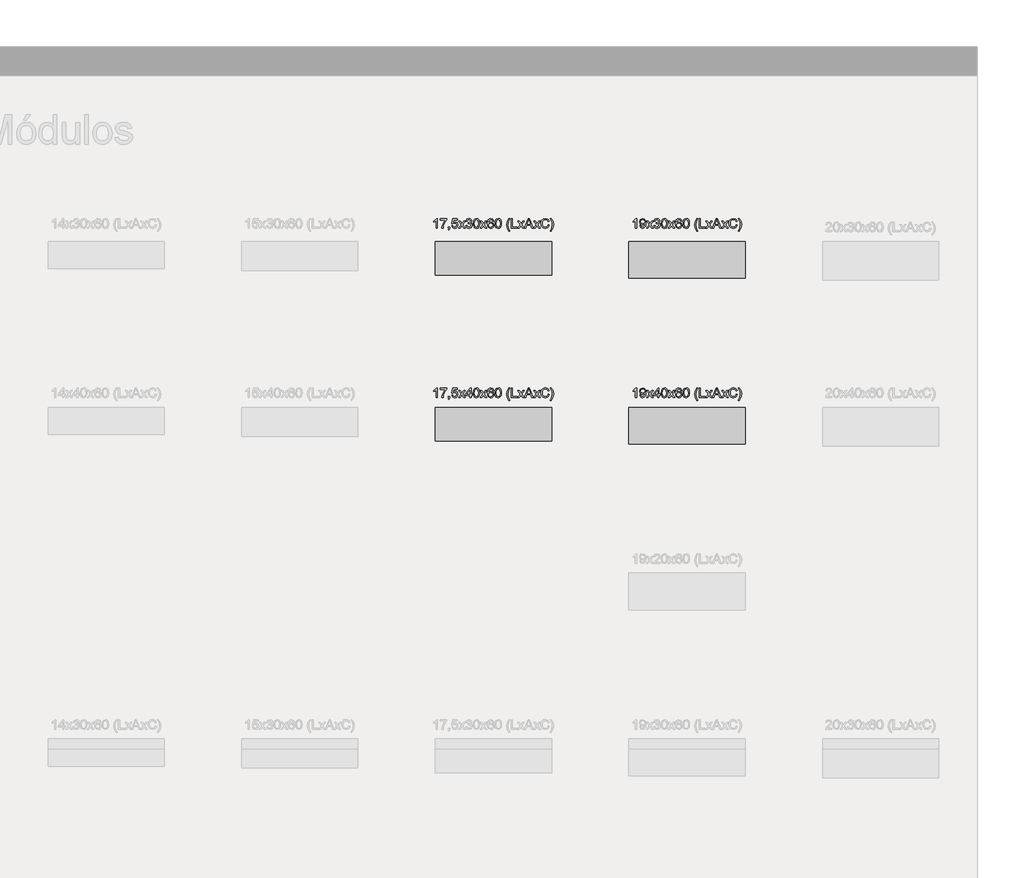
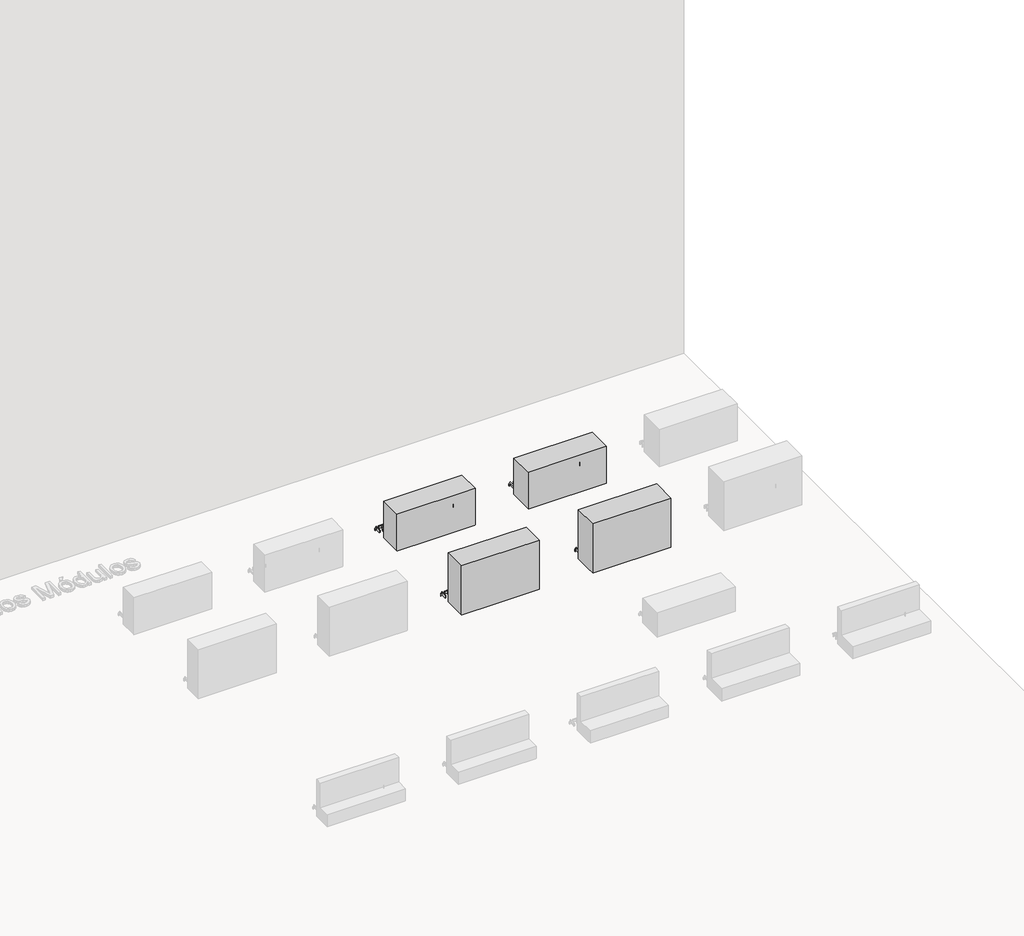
# One storey, part 22 of 26: 8 proxies.
"""IFC4 building model written with IfcOpenShell, lengths in millimetres."""

from ifc_helpers import new_model, si_unit, origin, origin_with_axes, place, context, project, spatial, polyline, outline, extrude, transform, mapped, element, save
from components import generic_models_9379f522, generic_models_39737419, generic_models_ac6e04da, generic_models_be295d03

model = new_model("IFC4")

# Units and contexts
model_context = context("Model", 3, world=origin())
ifc_project = project(units=[si_unit("LENGTHUNIT", "METRE", prefix="MILLI")], contexts=[model_context])

# Site, building, storey
site = spatial("IfcSite", under=ifc_project)
building = spatial("IfcBuilding", under=site)
storey = spatial("IfcBuildingStorey", under=building, Name="Catálogo Celucon", Elevation=0.0)

# Proxies
placement = place(None, origin())
element("IfcBuildingElementProxy", 1, Name="Dimensões", ObjectType="Dimensões", at=placement, inside=storey, context=model_context, shape_type="SweptSolid", body=[
    extrude(outline(polyline([(-5787.0646748, 1418.4635097), (-5793.3431942, 1418.4635097), (-5793.3431942, 1457.606154), (-5799.2906197, 1453.3693797), (-5805.9002329, 1450.1994632), (-5805.9002329, 1456.134626), (-5796.6970517, 1462.0084752), (-5791.1113767, 1468.6916648), (-5787.0646748, 1468.6916648), (-5787.0646748, 1418.4635097)])), origin_with_axes(), (0.0, 0.0, 1.0), 20.0),
    extrude(outline(polyline([(-5772.1531912, 1461.6283305), (-5772.1531912, 1467.9068499), (-5739.1909645, 1467.9068499), (-5739.1909645, 1462.8300783), (-5748.5412985, 1449.3226777), (-5755.6966033, 1432.1119317), (-5758.0265226, 1418.4635097), (-5764.305042, 1418.4635097), (-5761.8095758, 1432.6269665), (-5754.9608393, 1448.6359647), (-5745.4694838, 1461.6283305), (-5772.1531912, 1461.6283305)])), origin_with_axes(), (0.0, 0.0, 1.0), 20.0),
    extrude(outline(polyline([(-5730.5580003, 1418.4635097), (-5730.5580003, 1424.7420291), (-5724.2794809, 1424.7420291), (-5724.2794809, 1418.4635097), (-5725.4076524, 1412.0439689), (-5728.9883705, 1408.2609157), (-5730.5580003, 1410.6153605), (-5728.2526065, 1413.3254245), (-5727.4310034, 1418.4635097), (-5730.5580003, 1418.4635097)])), origin_with_axes(), (0.0, 0.0, 1.0), 20.0),
    extrude(outline(polyline([(-5714.0768869, 1431.8053634), (-5707.7983675, 1432.5901783), (-5704.6345824, 1426.1215866), (-5698.0740201, 1423.9572142), (-5690.2013454, 1426.9677152), (-5687.3931795, 1434.9568858), (-5690.0235358, 1442.4126276), (-5697.9759183, 1445.1472171), (-5703.4880168, 1444.0558338), (-5707.0135526, 1441.2231425), (-5713.292072, 1442.0079574), (-5707.7983675, 1467.9068499), (-5683.4691049, 1467.9068499), (-5683.4691049, 1461.6283305), (-5702.721596, 1461.6283305), (-5705.4071346, 1447.7959675), (-5696.2223474, 1451.4257365), (-5685.4863245, 1446.9253134), (-5681.1146602, 1435.3492933), (-5685.0509975, 1423.6996968), (-5690.7041175, 1419.1839453), (-5698.0985456, 1417.6786948), (-5709.177925, 1421.5475871), (-5714.0768869, 1431.8053634)])), origin_with_axes(), (0.0, 0.0, 1.0), 20.0),
    extrude(outline(polyline([(-5677.9754005, 1418.4635097), (-5664.5599704, 1437.0047623), (-5677.1905855, 1455.3498111), (-5669.6367419, 1455.3498111), (-5663.5421635, 1446.5206432), (-5660.6972094, 1442.3513139), (-5658.2324001, 1445.7603537), (-5651.2916931, 1455.3498111), (-5643.7378494, 1455.3498111), (-5657.0061267, 1437.0047623), (-5644.2283588, 1418.4635097), (-5651.7822024, 1418.4635097), (-5659.4709361, 1429.6103342), (-5660.8811504, 1431.6459479), (-5670.4215568, 1418.4635097), (-5677.9754005, 1418.4635097)])), origin_with_axes(), (0.0, 0.0, 1.0), 20.0),
    extrude(outline(polyline([(-5640.3042842, 1431.8053634), (-5634.0257648, 1432.5901783), (-5630.5615427, 1425.9805651), (-5624.0806882, 1423.9572142), (-5616.4532681, 1426.7408546), (-5613.6205768, 1433.6325106), (-5616.4287427, 1440.1256279), (-5623.5656534, 1442.6946705), (-5627.9679746, 1442.0079574), (-5627.2689988, 1448.2864768), (-5619.1388067, 1450.0155222), (-5615.9750215, 1455.5582776), (-5618.2681526, 1460.4695022), (-5624.17879, 1462.4131454), (-5630.1630038, 1460.4511081), (-5633.2409499, 1454.5649962), (-5639.5194692, 1455.3498111), (-5634.381384, 1465.1967858), (-5624.3995192, 1468.6916648), (-5616.8272815, 1466.9687508), (-5611.5297808, 1462.2598612), (-5609.6965022, 1455.9261595), (-5611.4378103, 1450.1381495), (-5616.5881582, 1445.9810829), (-5609.7455531, 1441.6891263), (-5607.3420574, 1433.522146), (-5612.1490488, 1422.2894825), (-5624.3014174, 1417.6786948), (-5635.3133518, 1421.6150321), (-5640.3042842, 1431.8053634)])), origin_with_axes(), (0.0, 0.0, 1.0), 20.0),
    extrude(outline(polyline([(-5601.8483529, 1443.172917), (-5600.0028116, 1457.6245481), (-5594.5213699, 1465.9570753), (-5585.3672395, 1468.6916648), (-5578.0341251, 1467.072984), (-5572.9696163, 1462.407014), (-5570.0265603, 1454.9757977), (-5568.8861262, 1443.172917), (-5570.7132734, 1428.7825997), (-5576.176321, 1420.4316784), (-5585.3672395, 1417.6786948), (-5596.8451578, 1422.4611607), (-5600.5975541, 1430.9561691), (-5601.8483529, 1443.172917)]), holes=[polyline([(-5595.5698335, 1443.1851798), (-5592.6267776, 1427.5931146), (-5585.3672395, 1423.9572142), (-5578.1077015, 1427.6053773), (-5575.1646455, 1443.1851798), (-5578.0095996, 1458.5994354), (-5585.4408159, 1462.4131454), (-5592.5286757, 1459.0531565), (-5595.5698335, 1443.1851798)])]), origin_with_axes(), (0.0, 0.0, 1.0), 20.0),
    extrude(outline(polyline([(-5565.7468665, 1418.4635097), (-5552.3314364, 1437.0047623), (-5564.9620515, 1455.3498111), (-5557.4082079, 1455.3498111), (-5551.3136295, 1446.5206432), (-5548.4686754, 1442.3513139), (-5546.0038661, 1445.7603537), (-5539.0631591, 1455.3498111), (-5531.5093155, 1455.3498111), (-5544.7775927, 1437.0047623), (-5531.9998248, 1418.4635097), (-5539.5536684, 1418.4635097), (-5547.2424021, 1429.6103342), (-5548.6526164, 1431.6459479), (-5558.1930228, 1418.4635097), (-5565.7468665, 1418.4635097)])), origin_with_axes(), (0.0, 0.0, 1.0), 20.0),
    extrude(outline(polyline([(-5495.8983383, 1455.3498111), (-5502.1768577, 1454.5649962), (-5504.5558279, 1459.8011832), (-5510.8466101, 1462.4131454), (-5516.5119928, 1460.8925665), (-5520.797818, 1455.1842642), (-5522.5820457, 1443.9945202), (-5517.0454217, 1449.0038467), (-5510.1844225, 1450.6409215), (-5499.5158446, 1446.1650239), (-5495.1135234, 1434.6012666), (-5497.1859253, 1425.9376456), (-5502.8880962, 1419.806279), (-5511.1163902, 1417.6786948), (-5523.9125523, 1423.319552), (-5527.6235619, 1430.7875565), (-5528.8605651, 1441.9098555), (-5527.487139, 1454.4147777), (-5523.3668606, 1462.9649684), (-5517.7413318, 1467.2599907), (-5510.4542026, 1468.6916648), (-5500.5336515, 1465.1477349), (-5495.8983383, 1455.3498111)]), holes=[polyline([(-5522.5820457, 1434.6993684), (-5521.1289118, 1429.2608463), (-5517.2661509, 1425.3122462), (-5511.6068995, 1423.9572142), (-5504.20634, 1426.7653801), (-5501.3920428, 1434.3928001), (-5504.1695518, 1441.6952577), (-5511.8644169, 1444.3624022), (-5519.4611801, 1441.6952577), (-5522.5820457, 1434.6993684)])]), origin_with_axes(), (0.0, 0.0, 1.0), 20.0),
    extrude(outline(polyline([(-5489.6198189, 1443.172917), (-5487.7742776, 1457.6245481), (-5482.2928359, 1465.9570753), (-5473.1387056, 1468.6916648), (-5465.8055911, 1467.072984), (-5460.7410823, 1462.407014), (-5457.7980264, 1454.9757977), (-5456.6575922, 1443.172917), (-5458.4847394, 1428.7825997), (-5463.947787, 1420.4316784), (-5473.1387056, 1417.6786948), (-5484.6166238, 1422.4611607), (-5488.3690202, 1430.9561691), (-5489.6198189, 1443.172917)]), holes=[polyline([(-5483.3412996, 1443.1851798), (-5480.3982436, 1427.5931146), (-5473.1387056, 1423.9572142), (-5465.8791675, 1427.6053773), (-5462.9361116, 1443.1851798), (-5465.7810656, 1458.5994354), (-5473.212282, 1462.4131454), (-5480.3001417, 1459.0531565), (-5483.3412996, 1443.1851798)])]), origin_with_axes(), (0.0, 0.0, 1.0), 20.0),
    extrude(outline(polyline([(-5417.416846, 1404.3368411), (-5426.331853, 1419.0643836), (-5429.9738848, 1436.5510411), (-5427.251558, 1451.8181439), (-5417.416846, 1468.6916648), (-5412.7079565, 1468.6916648), (-5418.5818057, 1458.7465882), (-5422.1134728, 1449.1080799), (-5423.6953654, 1436.5142529), (-5420.9485132, 1420.4194156), (-5412.7079565, 1404.3368411), (-5417.416846, 1404.3368411)])), origin_with_axes(), (0.0, 0.0, 1.0), 20.0),
    extrude(outline(polyline([(-5405.6446222, 1418.4635097), (-5405.6446222, 1468.6916648), (-5399.3661028, 1468.6916648), (-5399.3661028, 1424.7420291), (-5374.2520252, 1424.7420291), (-5374.2520252, 1418.4635097), (-5405.6446222, 1418.4635097)])), origin_with_axes(), (0.0, 0.0, 1.0), 20.0),
    extrude(outline(polyline([(-5337.7213431, 1418.4635097), (-5317.6717744, 1468.6916648), (-5312.3252227, 1468.6916648), (-5292.275654, 1418.4635097), (-5298.9097926, 1418.4635097), (-5304.6610145, 1434.1598082), (-5325.3482454, 1434.1598082), (-5331.0872045, 1418.4635097), (-5337.7213431, 1418.4635097)]), holes=[polyline([(-5323.0428515, 1440.4383275), (-5306.9541456, 1440.4383275), (-5311.4790941, 1452.7868999), (-5314.9984986, 1462.4131454), (-5318.1254955, 1453.8660204), (-5323.0428515, 1440.4383275)])]), origin_with_axes(), (0.0, 0.0, 1.0), 20.0),
    extrude(outline(polyline([(-5371.8975805, 1418.4635097), (-5358.4821504, 1437.0047623), (-5371.1127656, 1455.3498111), (-5363.5589219, 1455.3498111), (-5357.4643435, 1446.5206432), (-5354.6193894, 1442.3513139), (-5352.1545801, 1445.7603537), (-5345.2138731, 1455.3498111), (-5337.6600295, 1455.3498111), (-5350.9283068, 1437.0047623), (-5338.1505388, 1418.4635097), (-5345.7043824, 1418.4635097), (-5353.3931161, 1429.6103342), (-5354.8033304, 1431.6459479), (-5364.3437368, 1418.4635097), (-5371.8975805, 1418.4635097)])), origin_with_axes(), (0.0, 0.0, 1.0), 20.0),
    extrude(outline(polyline([(-5290.2768285, 1418.4635097), (-5276.8613984, 1437.0047623), (-5289.4920136, 1455.3498111), (-5281.9381699, 1455.3498111), (-5275.8435915, 1446.5206432), (-5272.9986374, 1442.3513139), (-5270.5338281, 1445.7603537), (-5263.5931211, 1455.3498111), (-5256.0392775, 1455.3498111), (-5269.3075548, 1437.0047623), (-5256.5297868, 1418.4635097), (-5264.0836304, 1418.4635097), (-5271.7723641, 1429.6103342), (-5273.1825784, 1431.6459479), (-5282.7229848, 1418.4635097), (-5290.2768285, 1418.4635097)])), origin_with_axes(), (0.0, 0.0, 1.0), 20.0),
    extrude(outline(polyline([(-5214.9345959, 1436.3180492), (-5208.6560765, 1434.6993684), (-5216.0995555, 1422.0380964), (-5229.2452055, 1417.6786948), (-5242.3111477, 1420.97737), (-5249.9753559, 1430.5300391), (-5252.6057122, 1443.957732), (-5249.6319994, 1457.606154), (-5241.1768449, 1466.453716), (-5229.1103154, 1469.4764797), (-5216.5348825, 1465.5646678), (-5209.4408914, 1454.5527334), (-5215.7194108, 1453.05668), (-5220.8697587, 1460.7760705), (-5229.3555701, 1463.1979603), (-5239.1780194, 1460.5124218), (-5244.7269061, 1453.3019346), (-5246.3271928, 1443.9699947), (-5244.4326005, 1433.154264), (-5238.5342259, 1426.2442139), (-5229.8706049, 1423.9572142), (-5220.2627534, 1427.0719484), (-5214.9345959, 1436.3180492)])), origin_with_axes(), (0.0, 0.0, 1.0), 20.0),
    extrude(outline(polyline([(-5199.2382974, 1404.3368411), (-5203.9471869, 1404.3368411), (-5195.7066303, 1420.4194156), (-5192.959778, 1436.5142529), (-5194.5416706, 1448.9977153), (-5198.0365496, 1458.6484863), (-5203.9471869, 1468.6916648), (-5199.2382974, 1468.6916648), (-5189.4035854, 1451.8181439), (-5186.6812586, 1436.5510411), (-5190.3416845, 1419.0643836), (-5199.2382974, 1404.3368411)])), origin_with_axes(), (0.0, 0.0, 1.0), 20.0),
])
element("IfcBuildingElementProxy", 2, Name="Dimensões", ObjectType="Dimensões", at=placement, inside=storey, context=model_context, shape_type="SweptSolid", body=[
    extrude(outline(polyline([(-4758.0265226, 1418.4635097), (-4764.305042, 1418.4635097), (-4764.305042, 1457.606154), (-4770.2524676, 1453.3693797), (-4776.8620808, 1450.1994632), (-4776.8620808, 1456.134626), (-4767.6588995, 1462.0084752), (-4762.0732246, 1468.6916648), (-4758.0265226, 1468.6916648), (-4758.0265226, 1418.4635097)])), origin_with_axes(), (0.0, 0.0, 1.0), 20.0),
    extrude(outline(polyline([(-4742.3302242, 1431.0205485), (-4736.0517048, 1431.8053634), (-4733.2312761, 1425.8150182), (-4727.8847245, 1423.9572142), (-4722.8018216, 1425.1528307), (-4719.3559936, 1428.3472726), (-4717.3019857, 1433.8041889), (-4716.3945435, 1441.0882524), (-4721.4529209, 1437.5565853), (-4728.3384456, 1435.729438), (-4738.8292138, 1440.1930729), (-4743.1150391, 1451.953034), (-4738.6207474, 1464.0931398), (-4727.357427, 1468.6916648), (-4718.4117631, 1466.0674399), (-4712.255871, 1458.5871726), (-4710.1528123, 1444.5340804), (-4712.2497397, 1429.2853717), (-4718.4853395, 1420.6462762), (-4728.1790301, 1417.6786948), (-4737.8298011, 1421.1797051), (-4742.3302242, 1431.0205485)]), holes=[polyline([(-4716.4313317, 1452.1001868), (-4719.1413957, 1459.629505), (-4726.3396201, 1462.4131454), (-4733.8934637, 1459.4149071), (-4736.8365197, 1451.6464657), (-4734.0528793, 1444.6873646), (-4726.5112984, 1442.0079574), (-4719.2701544, 1444.6873646), (-4716.4313317, 1452.1001868)])]), origin_with_axes(), (0.0, 0.0, 1.0), 20.0),
    extrude(outline(polyline([(-4707.0135526, 1418.4635097), (-4693.5981225, 1437.0047623), (-4706.2287377, 1455.3498111), (-4698.6748941, 1455.3498111), (-4692.5803157, 1446.5206432), (-4689.7353616, 1442.3513139), (-4687.2705522, 1445.7603537), (-4680.3298452, 1455.3498111), (-4672.7760016, 1455.3498111), (-4686.0442789, 1437.0047623), (-4673.2665109, 1418.4635097), (-4680.8203546, 1418.4635097), (-4688.5090883, 1429.6103342), (-4689.9193026, 1431.6459479), (-4699.459709, 1418.4635097), (-4707.0135526, 1418.4635097)])), origin_with_axes(), (0.0, 0.0, 1.0), 20.0),
    extrude(outline(polyline([(-4669.3424363, 1431.8053634), (-4663.0639169, 1432.5901783), (-4659.5996948, 1425.9805651), (-4653.1188403, 1423.9572142), (-4645.4914203, 1426.7408546), (-4642.6587289, 1433.6325106), (-4645.4668948, 1440.1256279), (-4652.6038055, 1442.6946705), (-4657.0061267, 1442.0079574), (-4656.3071509, 1448.2864768), (-4648.1769589, 1450.0155222), (-4645.0131737, 1455.5582776), (-4647.3063048, 1460.4695022), (-4653.2169422, 1462.4131454), (-4659.201156, 1460.4511081), (-4662.279102, 1454.5649962), (-4668.5576214, 1455.3498111), (-4663.4195362, 1465.1967858), (-4653.4376714, 1468.6916648), (-4645.8654337, 1466.9687508), (-4640.5679329, 1462.2598612), (-4638.7346543, 1455.9261595), (-4640.4759624, 1450.1381495), (-4645.6263104, 1445.9810829), (-4638.7837052, 1441.6891263), (-4636.3802095, 1433.522146), (-4641.1872009, 1422.2894825), (-4653.3395695, 1417.6786948), (-4664.3515039, 1421.6150321), (-4669.3424363, 1431.8053634)])), origin_with_axes(), (0.0, 0.0, 1.0), 20.0),
    extrude(outline(polyline([(-4630.8865051, 1443.172917), (-4629.0409637, 1457.6245481), (-4623.559522, 1465.9570753), (-4614.4053917, 1468.6916648), (-4607.0722773, 1467.072984), (-4602.0077685, 1462.407014), (-4599.0647125, 1454.9757977), (-4597.9242783, 1443.172917), (-4599.7514256, 1428.7825997), (-4605.2144732, 1420.4316784), (-4614.4053917, 1417.6786948), (-4625.8833099, 1422.4611607), (-4629.6357063, 1430.9561691), (-4630.8865051, 1443.172917)]), holes=[polyline([(-4624.6079857, 1443.1851798), (-4621.6649297, 1427.5931146), (-4614.4053917, 1423.9572142), (-4607.1458537, 1427.6053773), (-4604.2027977, 1443.1851798), (-4607.0477518, 1458.5994354), (-4614.4789681, 1462.4131454), (-4621.5668279, 1459.0531565), (-4624.6079857, 1443.1851798)])]), origin_with_axes(), (0.0, 0.0, 1.0), 20.0),
    extrude(outline(polyline([(-4594.7850186, 1418.4635097), (-4581.3695885, 1437.0047623), (-4594.0002037, 1455.3498111), (-4586.4463601, 1455.3498111), (-4580.3517817, 1446.5206432), (-4577.5068276, 1442.3513139), (-4575.0420182, 1445.7603537), (-4568.1013112, 1455.3498111), (-4560.5474676, 1455.3498111), (-4573.8157449, 1437.0047623), (-4561.0379769, 1418.4635097), (-4568.5918206, 1418.4635097), (-4576.2805543, 1429.6103342), (-4577.6907686, 1431.6459479), (-4587.231175, 1418.4635097), (-4594.7850186, 1418.4635097)])), origin_with_axes(), (0.0, 0.0, 1.0), 20.0),
    extrude(outline(polyline([(-4524.9364905, 1455.3498111), (-4531.2150099, 1454.5649962), (-4533.5939801, 1459.8011832), (-4539.8847622, 1462.4131454), (-4545.5501449, 1460.8925665), (-4549.8359702, 1455.1842642), (-4551.6201979, 1443.9945202), (-4546.0835738, 1449.0038467), (-4539.2225746, 1450.6409215), (-4528.5539968, 1446.1650239), (-4524.1516755, 1434.6012666), (-4526.2240775, 1425.9376456), (-4531.9262484, 1419.806279), (-4540.1545423, 1417.6786948), (-4552.9507044, 1423.319552), (-4556.661714, 1430.7875565), (-4557.8987172, 1441.9098555), (-4556.5252911, 1454.4147777), (-4552.4050128, 1462.9649684), (-4546.7794839, 1467.2599907), (-4539.4923547, 1468.6916648), (-4529.5718036, 1465.1477349), (-4524.9364905, 1455.3498111)]), holes=[polyline([(-4551.6201979, 1434.6993684), (-4550.167064, 1429.2608463), (-4546.304303, 1425.3122462), (-4540.6450517, 1423.9572142), (-4533.2444922, 1426.7653801), (-4530.4301949, 1434.3928001), (-4533.207704, 1441.6952577), (-4540.9025691, 1444.3624022), (-4548.4993323, 1441.6952577), (-4551.6201979, 1434.6993684)])]), origin_with_axes(), (0.0, 0.0, 1.0), 20.0),
    extrude(outline(polyline([(-4518.6579711, 1443.172917), (-4516.8124297, 1457.6245481), (-4511.330988, 1465.9570753), (-4502.1768577, 1468.6916648), (-4494.8437433, 1467.072984), (-4489.7792345, 1462.407014), (-4486.8361785, 1454.9757977), (-4485.6957443, 1443.172917), (-4487.5228916, 1428.7825997), (-4492.9859392, 1420.4316784), (-4502.1768577, 1417.6786948), (-4513.654776, 1422.4611607), (-4517.4071723, 1430.9561691), (-4518.6579711, 1443.172917)]), holes=[polyline([(-4512.3794517, 1443.1851798), (-4509.4363957, 1427.5931146), (-4502.1768577, 1423.9572142), (-4494.9173197, 1427.6053773), (-4491.9742637, 1443.1851798), (-4494.8192178, 1458.5994354), (-4502.2504341, 1462.4131454), (-4509.3382939, 1459.0531565), (-4512.3794517, 1443.1851798)])]), origin_with_axes(), (0.0, 0.0, 1.0), 20.0),
    extrude(outline(polyline([(-4446.4549982, 1404.3368411), (-4455.3700052, 1419.0643836), (-4459.0120369, 1436.5510411), (-4456.2897102, 1451.8181439), (-4446.4549982, 1468.6916648), (-4441.7461086, 1468.6916648), (-4447.6199578, 1458.7465882), (-4451.151625, 1449.1080799), (-4452.7335176, 1436.5142529), (-4449.9866653, 1420.4194156), (-4441.7461086, 1404.3368411), (-4446.4549982, 1404.3368411)])), origin_with_axes(), (0.0, 0.0, 1.0), 20.0),
    extrude(outline(polyline([(-4434.6827743, 1418.4635097), (-4434.6827743, 1468.6916648), (-4428.4042549, 1468.6916648), (-4428.4042549, 1424.7420291), (-4403.2901774, 1424.7420291), (-4403.2901774, 1418.4635097), (-4434.6827743, 1418.4635097)])), origin_with_axes(), (0.0, 0.0, 1.0), 20.0),
    extrude(outline(polyline([(-4366.7594953, 1418.4635097), (-4346.7099265, 1468.6916648), (-4341.3633749, 1468.6916648), (-4321.3138061, 1418.4635097), (-4327.9479448, 1418.4635097), (-4333.6991666, 1434.1598082), (-4354.3863975, 1434.1598082), (-4360.1253566, 1418.4635097), (-4366.7594953, 1418.4635097)]), holes=[polyline([(-4352.0810037, 1440.4383275), (-4335.9922977, 1440.4383275), (-4340.5172463, 1452.7868999), (-4344.0366507, 1462.4131454), (-4347.1636477, 1453.8660204), (-4352.0810037, 1440.4383275)])]), origin_with_axes(), (0.0, 0.0, 1.0), 20.0),
    extrude(outline(polyline([(-4400.9357326, 1418.4635097), (-4387.5203025, 1437.0047623), (-4400.1509177, 1455.3498111), (-4392.5970741, 1455.3498111), (-4386.5024957, 1446.5206432), (-4383.6575416, 1442.3513139), (-4381.1927322, 1445.7603537), (-4374.2520252, 1455.3498111), (-4366.6981816, 1455.3498111), (-4379.9664589, 1437.0047623), (-4367.1886909, 1418.4635097), (-4374.7425346, 1418.4635097), (-4382.4312683, 1429.6103342), (-4383.8414826, 1431.6459479), (-4393.381889, 1418.4635097), (-4400.9357326, 1418.4635097)])), origin_with_axes(), (0.0, 0.0, 1.0), 20.0),
    extrude(outline(polyline([(-4319.3149806, 1418.4635097), (-4305.8995505, 1437.0047623), (-4318.5301657, 1455.3498111), (-4310.9763221, 1455.3498111), (-4304.8817437, 1446.5206432), (-4302.0367896, 1442.3513139), (-4299.5719802, 1445.7603537), (-4292.6312733, 1455.3498111), (-4285.0774296, 1455.3498111), (-4298.3457069, 1437.0047623), (-4285.5679389, 1418.4635097), (-4293.1217826, 1418.4635097), (-4300.8105163, 1429.6103342), (-4302.2207306, 1431.6459479), (-4311.761137, 1418.4635097), (-4319.3149806, 1418.4635097)])), origin_with_axes(), (0.0, 0.0, 1.0), 20.0),
    extrude(outline(polyline([(-4243.972748, 1436.3180492), (-4237.6942286, 1434.6993684), (-4245.1377077, 1422.0380964), (-4258.2833576, 1417.6786948), (-4271.3492998, 1420.97737), (-4279.0135081, 1430.5300391), (-4281.6438643, 1443.957732), (-4278.6701515, 1457.606154), (-4270.214997, 1466.453716), (-4258.1484676, 1469.4764797), (-4245.5730347, 1465.5646678), (-4238.4790436, 1454.5527334), (-4244.7575629, 1453.05668), (-4249.9079109, 1460.7760705), (-4258.3937222, 1463.1979603), (-4268.2161715, 1460.5124218), (-4273.7650583, 1453.3019346), (-4275.3653449, 1443.9699947), (-4273.4707527, 1433.154264), (-4267.572378, 1426.2442139), (-4258.908757, 1423.9572142), (-4249.3009056, 1427.0719484), (-4243.972748, 1436.3180492)])), origin_with_axes(), (0.0, 0.0, 1.0), 20.0),
    extrude(outline(polyline([(-4228.2764496, 1404.3368411), (-4232.9853391, 1404.3368411), (-4224.7447824, 1420.4194156), (-4221.9979302, 1436.5142529), (-4223.5798228, 1448.9977153), (-4227.0747017, 1458.6484863), (-4232.9853391, 1468.6916648), (-4228.2764496, 1468.6916648), (-4218.4417376, 1451.8181439), (-4215.7194108, 1436.5510411), (-4219.3798366, 1419.0643836), (-4228.2764496, 1404.3368411)])), origin_with_axes(), (0.0, 0.0, 1.0), 20.0),
])
element("IfcBuildingElementProxy", 3, Name="Dimensões", ObjectType="Dimensões", at=placement, inside=storey, context=model_context, shape_type="SweptSolid", body=[
    extrude(outline(polyline([(-5787.0646748, 543.1811307), (-5793.3431942, 543.1811307), (-5793.3431942, 582.323775), (-5799.2906197, 578.0870007), (-5805.9002329, 574.9170841), (-5805.9002329, 580.852247), (-5796.6970517, 586.7260962), (-5791.1113767, 593.4092858), (-5787.0646748, 593.4092858), (-5787.0646748, 543.1811307)])), origin_with_axes(), (0.0, 0.0, 1.0), 20.0),
    extrude(outline(polyline([(-5772.1531912, 586.3459515), (-5772.1531912, 592.6244708), (-5739.1909645, 592.6244708), (-5739.1909645, 587.5476993), (-5748.5412985, 574.0402987), (-5755.6966033, 556.8295527), (-5758.0265226, 543.1811307), (-5764.305042, 543.1811307), (-5761.8095758, 557.3445875), (-5754.9608393, 573.3535857), (-5745.4694838, 586.3459515), (-5772.1531912, 586.3459515)])), origin_with_axes(), (0.0, 0.0, 1.0), 20.0),
    extrude(outline(polyline([(-5730.5580003, 543.1811307), (-5730.5580003, 549.4596501), (-5724.2794809, 549.4596501), (-5724.2794809, 543.1811307), (-5725.4076524, 536.7615899), (-5728.9883705, 532.9785367), (-5730.5580003, 535.3329815), (-5728.2526065, 538.0430455), (-5727.4310034, 543.1811307), (-5730.5580003, 543.1811307)])), origin_with_axes(), (0.0, 0.0, 1.0), 20.0),
    extrude(outline(polyline([(-5714.0768869, 556.5229844), (-5707.7983675, 557.3077993), (-5704.6345824, 550.8392076), (-5698.0740201, 548.6748351), (-5690.2013454, 551.6853361), (-5687.3931795, 559.6745068), (-5690.0235358, 567.1302486), (-5697.9759183, 569.8648381), (-5703.4880168, 568.7734548), (-5707.0135526, 565.9407635), (-5713.292072, 566.7255784), (-5707.7983675, 592.6244708), (-5683.4691049, 592.6244708), (-5683.4691049, 586.3459515), (-5702.721596, 586.3459515), (-5705.4071346, 572.5135884), (-5696.2223474, 576.1433575), (-5685.4863245, 571.6429344), (-5681.1146602, 560.0669143), (-5685.0509975, 548.4173178), (-5690.7041175, 543.9015663), (-5698.0985456, 542.3963158), (-5709.177925, 546.2652081), (-5714.0768869, 556.5229844)])), origin_with_axes(), (0.0, 0.0, 1.0), 20.0),
    extrude(outline(polyline([(-5677.9754005, 543.1811307), (-5664.5599704, 561.7223832), (-5677.1905855, 580.0674321), (-5669.6367419, 580.0674321), (-5663.5421635, 571.2382642), (-5660.6972094, 567.0689349), (-5658.2324001, 570.4779747), (-5651.2916931, 580.0674321), (-5643.7378494, 580.0674321), (-5657.0061267, 561.7223832), (-5644.2283588, 543.1811307), (-5651.7822024, 543.1811307), (-5659.4709361, 554.3279551), (-5660.8811504, 556.3635688), (-5670.4215568, 543.1811307), (-5677.9754005, 543.1811307)])), origin_with_axes(), (0.0, 0.0, 1.0), 20.0),
    extrude(outline(polyline([(-5619.8990962, 543.1811307), (-5619.8990962, 554.9533545), (-5642.6587289, 554.9533545), (-5642.6587289, 561.2318739), (-5618.3294663, 592.6244708), (-5613.6205768, 592.6244708), (-5613.6205768, 561.2318739), (-5607.3420574, 561.2318739), (-5607.3420574, 554.9533545), (-5613.6205768, 554.9533545), (-5613.6205768, 543.1811307), (-5619.8990962, 543.1811307)]), holes=[polyline([(-5619.8990962, 561.2318739), (-5619.8990962, 580.6315178), (-5634.933207, 561.2318739), (-5619.8990962, 561.2318739)])]), origin_with_axes(), (0.0, 0.0, 1.0), 20.0),
    extrude(outline(polyline([(-5601.8483529, 567.890538), (-5600.0028116, 582.3421691), (-5594.5213699, 590.6746963), (-5585.3672395, 593.4092858), (-5578.0341251, 591.790605), (-5572.9696163, 587.124635), (-5570.0265603, 579.6934187), (-5568.8861262, 567.890538), (-5570.7132734, 553.5002207), (-5576.176321, 545.1492994), (-5585.3672395, 542.3963158), (-5596.8451578, 547.1787817), (-5600.5975541, 555.6737901), (-5601.8483529, 567.890538)]), holes=[polyline([(-5595.5698335, 567.9028008), (-5592.6267776, 552.3107355), (-5585.3672395, 548.6748351), (-5578.1077015, 552.3229983), (-5575.1646455, 567.9028008), (-5578.0095996, 583.3170564), (-5585.4408159, 587.1307664), (-5592.5286757, 583.7707775), (-5595.5698335, 567.9028008)])]), origin_with_axes(), (0.0, 0.0, 1.0), 20.0),
    extrude(outline(polyline([(-5565.7468665, 543.1811307), (-5552.3314364, 561.7223832), (-5564.9620515, 580.0674321), (-5557.4082079, 580.0674321), (-5551.3136295, 571.2382642), (-5548.4686754, 567.0689349), (-5546.0038661, 570.4779747), (-5539.0631591, 580.0674321), (-5531.5093155, 580.0674321), (-5544.7775927, 561.7223832), (-5531.9998248, 543.1811307), (-5539.5536684, 543.1811307), (-5547.2424021, 554.3279551), (-5548.6526164, 556.3635688), (-5558.1930228, 543.1811307), (-5565.7468665, 543.1811307)])), origin_with_axes(), (0.0, 0.0, 1.0), 20.0),
    extrude(outline(polyline([(-5495.8983383, 580.0674321), (-5502.1768577, 579.2826171), (-5504.5558279, 584.5188042), (-5510.8466101, 587.1307664), (-5516.5119928, 585.6101875), (-5520.797818, 579.9018852), (-5522.5820457, 568.7121412), (-5517.0454217, 573.7214677), (-5510.1844225, 575.3585425), (-5499.5158446, 570.8826449), (-5495.1135234, 559.3188875), (-5497.1859253, 550.6552666), (-5502.8880962, 544.5239), (-5511.1163902, 542.3963158), (-5523.9125523, 548.037173), (-5527.6235619, 555.5051775), (-5528.8605651, 566.6274765), (-5527.487139, 579.1323987), (-5523.3668606, 587.6825894), (-5517.7413318, 591.9776117), (-5510.4542026, 593.4092858), (-5500.5336515, 589.8653559), (-5495.8983383, 580.0674321)]), holes=[polyline([(-5522.5820457, 559.4169894), (-5521.1289118, 553.9784672), (-5517.2661509, 550.0298672), (-5511.6068995, 548.6748351), (-5504.20634, 551.483001), (-5501.3920428, 559.1104211), (-5504.1695518, 566.4128787), (-5511.8644169, 569.0800231), (-5519.4611801, 566.4128787), (-5522.5820457, 559.4169894)])]), origin_with_axes(), (0.0, 0.0, 1.0), 20.0),
    extrude(outline(polyline([(-5489.6198189, 567.890538), (-5487.7742776, 582.3421691), (-5482.2928359, 590.6746963), (-5473.1387056, 593.4092858), (-5465.8055911, 591.790605), (-5460.7410823, 587.124635), (-5457.7980264, 579.6934187), (-5456.6575922, 567.890538), (-5458.4847394, 553.5002207), (-5463.947787, 545.1492994), (-5473.1387056, 542.3963158), (-5484.6166238, 547.1787817), (-5488.3690202, 555.6737901), (-5489.6198189, 567.890538)]), holes=[polyline([(-5483.3412996, 567.9028008), (-5480.3982436, 552.3107355), (-5473.1387056, 548.6748351), (-5465.8791675, 552.3229983), (-5462.9361116, 567.9028008), (-5465.7810656, 583.3170564), (-5473.212282, 587.1307664), (-5480.3001417, 583.7707775), (-5483.3412996, 567.9028008)])]), origin_with_axes(), (0.0, 0.0, 1.0), 20.0),
    extrude(outline(polyline([(-5417.416846, 529.0544621), (-5426.331853, 543.7820046), (-5429.9738848, 561.2686621), (-5427.251558, 576.5357649), (-5417.416846, 593.4092858), (-5412.7079565, 593.4092858), (-5418.5818057, 583.4642092), (-5422.1134728, 573.8257009), (-5423.6953654, 561.2318739), (-5420.9485132, 545.1370366), (-5412.7079565, 529.0544621), (-5417.416846, 529.0544621)])), origin_with_axes(), (0.0, 0.0, 1.0), 20.0),
    extrude(outline(polyline([(-5405.6446222, 543.1811307), (-5405.6446222, 593.4092858), (-5399.3661028, 593.4092858), (-5399.3661028, 549.4596501), (-5374.2520252, 549.4596501), (-5374.2520252, 543.1811307), (-5405.6446222, 543.1811307)])), origin_with_axes(), (0.0, 0.0, 1.0), 20.0),
    extrude(outline(polyline([(-5337.7213431, 543.1811307), (-5317.6717744, 593.4092858), (-5312.3252227, 593.4092858), (-5292.275654, 543.1811307), (-5298.9097926, 543.1811307), (-5304.6610145, 558.8774291), (-5325.3482454, 558.8774291), (-5331.0872045, 543.1811307), (-5337.7213431, 543.1811307)]), holes=[polyline([(-5323.0428515, 565.1559485), (-5306.9541456, 565.1559485), (-5311.4790941, 577.5045208), (-5314.9984986, 587.1307664), (-5318.1254955, 578.5836414), (-5323.0428515, 565.1559485)])]), origin_with_axes(), (0.0, 0.0, 1.0), 20.0),
    extrude(outline(polyline([(-5371.8975805, 543.1811307), (-5358.4821504, 561.7223832), (-5371.1127656, 580.0674321), (-5363.5589219, 580.0674321), (-5357.4643435, 571.2382642), (-5354.6193894, 567.0689349), (-5352.1545801, 570.4779747), (-5345.2138731, 580.0674321), (-5337.6600295, 580.0674321), (-5350.9283068, 561.7223832), (-5338.1505388, 543.1811307), (-5345.7043824, 543.1811307), (-5353.3931161, 554.3279551), (-5354.8033304, 556.3635688), (-5364.3437368, 543.1811307), (-5371.8975805, 543.1811307)])), origin_with_axes(), (0.0, 0.0, 1.0), 20.0),
    extrude(outline(polyline([(-5290.2768285, 543.1811307), (-5276.8613984, 561.7223832), (-5289.4920136, 580.0674321), (-5281.9381699, 580.0674321), (-5275.8435915, 571.2382642), (-5272.9986374, 567.0689349), (-5270.5338281, 570.4779747), (-5263.5931211, 580.0674321), (-5256.0392775, 580.0674321), (-5269.3075548, 561.7223832), (-5256.5297868, 543.1811307), (-5264.0836304, 543.1811307), (-5271.7723641, 554.3279551), (-5273.1825784, 556.3635688), (-5282.7229848, 543.1811307), (-5290.2768285, 543.1811307)])), origin_with_axes(), (0.0, 0.0, 1.0), 20.0),
    extrude(outline(polyline([(-5214.9345959, 561.0356702), (-5208.6560765, 559.4169894), (-5216.0995555, 546.7557174), (-5229.2452055, 542.3963158), (-5242.3111477, 545.694991), (-5249.9753559, 555.2476601), (-5252.6057122, 568.675353), (-5249.6319994, 582.323775), (-5241.1768449, 591.171337), (-5229.1103154, 594.1941007), (-5216.5348825, 590.2822888), (-5209.4408914, 579.2703544), (-5215.7194108, 577.774301), (-5220.8697587, 585.4936915), (-5229.3555701, 587.9155813), (-5239.1780194, 585.2300427), (-5244.7269061, 578.0195556), (-5246.3271928, 568.6876157), (-5244.4326005, 557.871885), (-5238.5342259, 550.9618349), (-5229.8706049, 548.6748351), (-5220.2627534, 551.7895694), (-5214.9345959, 561.0356702)])), origin_with_axes(), (0.0, 0.0, 1.0), 20.0),
    extrude(outline(polyline([(-5199.2382974, 529.0544621), (-5203.9471869, 529.0544621), (-5195.7066303, 545.1370366), (-5192.959778, 561.2318739), (-5194.5416706, 573.7153363), (-5198.0365496, 583.3661073), (-5203.9471869, 593.4092858), (-5199.2382974, 593.4092858), (-5189.4035854, 576.5357649), (-5186.6812586, 561.2686621), (-5190.3416845, 543.7820046), (-5199.2382974, 529.0544621)])), origin_with_axes(), (0.0, 0.0, 1.0), 20.0),
])
element("IfcBuildingElementProxy", 4, Name="Dimensões", ObjectType="Dimensões", at=placement, inside=storey, context=model_context, shape_type="SweptSolid", body=[
    extrude(outline(polyline([(-4758.0265226, 543.1811307), (-4764.305042, 543.1811307), (-4764.305042, 582.323775), (-4770.2524676, 578.0870007), (-4776.8620808, 574.9170841), (-4776.8620808, 580.852247), (-4767.6588995, 586.7260962), (-4762.0732246, 593.4092858), (-4758.0265226, 593.4092858), (-4758.0265226, 543.1811307)])), origin_with_axes(), (0.0, 0.0, 1.0), 20.0),
    extrude(outline(polyline([(-4742.3302242, 555.7381695), (-4736.0517048, 556.5229844), (-4733.2312761, 550.5326392), (-4727.8847245, 548.6748351), (-4722.8018216, 549.8704516), (-4719.3559936, 553.0648936), (-4717.3019857, 558.5218099), (-4716.3945435, 565.8058734), (-4721.4529209, 562.2742062), (-4728.3384456, 560.447059), (-4738.8292138, 564.9106939), (-4743.1150391, 576.670655), (-4738.6207474, 588.8107608), (-4727.357427, 593.4092858), (-4718.4117631, 590.7850609), (-4712.255871, 583.3047936), (-4710.1528123, 569.2517014), (-4712.2497397, 554.0029927), (-4718.4853395, 545.3638972), (-4728.1790301, 542.3963158), (-4737.8298011, 545.8973261), (-4742.3302242, 555.7381695)]), holes=[polyline([(-4716.4313317, 576.8178078), (-4719.1413957, 584.3471259), (-4726.3396201, 587.1307664), (-4733.8934637, 584.1325281), (-4736.8365197, 576.3640867), (-4734.0528793, 569.4049856), (-4726.5112984, 566.7255784), (-4719.2701544, 569.4049856), (-4716.4313317, 576.8178078)])]), origin_with_axes(), (0.0, 0.0, 1.0), 20.0),
    extrude(outline(polyline([(-4707.0135526, 543.1811307), (-4693.5981225, 561.7223832), (-4706.2287377, 580.0674321), (-4698.6748941, 580.0674321), (-4692.5803157, 571.2382642), (-4689.7353616, 567.0689349), (-4687.2705522, 570.4779747), (-4680.3298452, 580.0674321), (-4672.7760016, 580.0674321), (-4686.0442789, 561.7223832), (-4673.2665109, 543.1811307), (-4680.8203546, 543.1811307), (-4688.5090883, 554.3279551), (-4689.9193026, 556.3635688), (-4699.459709, 543.1811307), (-4707.0135526, 543.1811307)])), origin_with_axes(), (0.0, 0.0, 1.0), 20.0),
    extrude(outline(polyline([(-4648.9372483, 543.1811307), (-4648.9372483, 554.9533545), (-4671.6968811, 554.9533545), (-4671.6968811, 561.2318739), (-4647.3676185, 592.6244708), (-4642.6587289, 592.6244708), (-4642.6587289, 561.2318739), (-4636.3802095, 561.2318739), (-4636.3802095, 554.9533545), (-4642.6587289, 554.9533545), (-4642.6587289, 543.1811307), (-4648.9372483, 543.1811307)]), holes=[polyline([(-4648.9372483, 561.2318739), (-4648.9372483, 580.6315178), (-4663.9713592, 561.2318739), (-4648.9372483, 561.2318739)])]), origin_with_axes(), (0.0, 0.0, 1.0), 20.0),
    extrude(outline(polyline([(-4630.8865051, 567.890538), (-4629.0409637, 582.3421691), (-4623.559522, 590.6746963), (-4614.4053917, 593.4092858), (-4607.0722773, 591.790605), (-4602.0077685, 587.124635), (-4599.0647125, 579.6934187), (-4597.9242783, 567.890538), (-4599.7514256, 553.5002207), (-4605.2144732, 545.1492994), (-4614.4053917, 542.3963158), (-4625.8833099, 547.1787817), (-4629.6357063, 555.6737901), (-4630.8865051, 567.890538)]), holes=[polyline([(-4624.6079857, 567.9028008), (-4621.6649297, 552.3107355), (-4614.4053917, 548.6748351), (-4607.1458537, 552.3229983), (-4604.2027977, 567.9028008), (-4607.0477518, 583.3170564), (-4614.4789681, 587.1307664), (-4621.5668279, 583.7707775), (-4624.6079857, 567.9028008)])]), origin_with_axes(), (0.0, 0.0, 1.0), 20.0),
    extrude(outline(polyline([(-4594.7850186, 543.1811307), (-4581.3695885, 561.7223832), (-4594.0002037, 580.0674321), (-4586.4463601, 580.0674321), (-4580.3517817, 571.2382642), (-4577.5068276, 567.0689349), (-4575.0420182, 570.4779747), (-4568.1013112, 580.0674321), (-4560.5474676, 580.0674321), (-4573.8157449, 561.7223832), (-4561.0379769, 543.1811307), (-4568.5918206, 543.1811307), (-4576.2805543, 554.3279551), (-4577.6907686, 556.3635688), (-4587.231175, 543.1811307), (-4594.7850186, 543.1811307)])), origin_with_axes(), (0.0, 0.0, 1.0), 20.0),
    extrude(outline(polyline([(-4524.9364905, 580.0674321), (-4531.2150099, 579.2826171), (-4533.5939801, 584.5188042), (-4539.8847622, 587.1307664), (-4545.5501449, 585.6101875), (-4549.8359702, 579.9018852), (-4551.6201979, 568.7121412), (-4546.0835738, 573.7214677), (-4539.2225746, 575.3585425), (-4528.5539968, 570.8826449), (-4524.1516755, 559.3188875), (-4526.2240775, 550.6552666), (-4531.9262484, 544.5239), (-4540.1545423, 542.3963158), (-4552.9507044, 548.037173), (-4556.661714, 555.5051775), (-4557.8987172, 566.6274765), (-4556.5252911, 579.1323987), (-4552.4050128, 587.6825894), (-4546.7794839, 591.9776117), (-4539.4923547, 593.4092858), (-4529.5718036, 589.8653559), (-4524.9364905, 580.0674321)]), holes=[polyline([(-4551.6201979, 559.4169894), (-4550.167064, 553.9784672), (-4546.304303, 550.0298672), (-4540.6450517, 548.6748351), (-4533.2444922, 551.483001), (-4530.4301949, 559.1104211), (-4533.207704, 566.4128787), (-4540.9025691, 569.0800231), (-4548.4993323, 566.4128787), (-4551.6201979, 559.4169894)])]), origin_with_axes(), (0.0, 0.0, 1.0), 20.0),
    extrude(outline(polyline([(-4518.6579711, 567.890538), (-4516.8124297, 582.3421691), (-4511.330988, 590.6746963), (-4502.1768577, 593.4092858), (-4494.8437433, 591.790605), (-4489.7792345, 587.124635), (-4486.8361785, 579.6934187), (-4485.6957443, 567.890538), (-4487.5228916, 553.5002207), (-4492.9859392, 545.1492994), (-4502.1768577, 542.3963158), (-4513.654776, 547.1787817), (-4517.4071723, 555.6737901), (-4518.6579711, 567.890538)]), holes=[polyline([(-4512.3794517, 567.9028008), (-4509.4363957, 552.3107355), (-4502.1768577, 548.6748351), (-4494.9173197, 552.3229983), (-4491.9742637, 567.9028008), (-4494.8192178, 583.3170564), (-4502.2504341, 587.1307664), (-4509.3382939, 583.7707775), (-4512.3794517, 567.9028008)])]), origin_with_axes(), (0.0, 0.0, 1.0), 20.0),
    extrude(outline(polyline([(-4446.4549982, 529.0544621), (-4455.3700052, 543.7820046), (-4459.0120369, 561.2686621), (-4456.2897102, 576.5357649), (-4446.4549982, 593.4092858), (-4441.7461086, 593.4092858), (-4447.6199578, 583.4642092), (-4451.151625, 573.8257009), (-4452.7335176, 561.2318739), (-4449.9866653, 545.1370366), (-4441.7461086, 529.0544621), (-4446.4549982, 529.0544621)])), origin_with_axes(), (0.0, 0.0, 1.0), 20.0),
    extrude(outline(polyline([(-4434.6827743, 543.1811307), (-4434.6827743, 593.4092858), (-4428.4042549, 593.4092858), (-4428.4042549, 549.4596501), (-4403.2901774, 549.4596501), (-4403.2901774, 543.1811307), (-4434.6827743, 543.1811307)])), origin_with_axes(), (0.0, 0.0, 1.0), 20.0),
    extrude(outline(polyline([(-4400.9357326, 543.1811307), (-4387.5203025, 561.7223832), (-4400.1509177, 580.0674321), (-4392.5970741, 580.0674321), (-4386.5024957, 571.2382642), (-4383.6575416, 567.0689349), (-4381.1927322, 570.4779747), (-4374.2520252, 580.0674321), (-4366.6981816, 580.0674321), (-4379.9664589, 561.7223832), (-4367.1886909, 543.1811307), (-4374.7425346, 543.1811307), (-4382.4312683, 554.3279551), (-4383.8414826, 556.3635688), (-4393.381889, 543.1811307), (-4400.9357326, 543.1811307)])), origin_with_axes(), (0.0, 0.0, 1.0), 20.0),
    extrude(outline(polyline([(-4366.7594953, 543.1811307), (-4346.7099265, 593.4092858), (-4341.3633749, 593.4092858), (-4321.3138061, 543.1811307), (-4327.9479448, 543.1811307), (-4333.6991666, 558.8774291), (-4354.3863975, 558.8774291), (-4360.1253566, 543.1811307), (-4366.7594953, 543.1811307)]), holes=[polyline([(-4352.0810037, 565.1559485), (-4335.9922977, 565.1559485), (-4340.5172463, 577.5045208), (-4344.0366507, 587.1307664), (-4347.1636477, 578.5836414), (-4352.0810037, 565.1559485)])]), origin_with_axes(), (0.0, 0.0, 1.0), 20.0),
    extrude(outline(polyline([(-4319.3149806, 543.1811307), (-4305.8995505, 561.7223832), (-4318.5301657, 580.0674321), (-4310.9763221, 580.0674321), (-4304.8817437, 571.2382642), (-4302.0367896, 567.0689349), (-4299.5719802, 570.4779747), (-4292.6312733, 580.0674321), (-4285.0774296, 580.0674321), (-4298.3457069, 561.7223832), (-4285.5679389, 543.1811307), (-4293.1217826, 543.1811307), (-4300.8105163, 554.3279551), (-4302.2207306, 556.3635688), (-4311.761137, 543.1811307), (-4319.3149806, 543.1811307)])), origin_with_axes(), (0.0, 0.0, 1.0), 20.0),
    extrude(outline(polyline([(-4243.972748, 561.0356702), (-4237.6942286, 559.4169894), (-4245.1377077, 546.7557174), (-4258.2833576, 542.3963158), (-4271.3492998, 545.694991), (-4279.0135081, 555.2476601), (-4281.6438643, 568.675353), (-4278.6701515, 582.323775), (-4270.214997, 591.171337), (-4258.1484676, 594.1941007), (-4245.5730347, 590.2822888), (-4238.4790436, 579.2703544), (-4244.7575629, 577.774301), (-4249.9079109, 585.4936915), (-4258.3937222, 587.9155813), (-4268.2161715, 585.2300427), (-4273.7650583, 578.0195556), (-4275.3653449, 568.6876157), (-4273.4707527, 557.871885), (-4267.572378, 550.9618349), (-4258.908757, 548.6748351), (-4249.3009056, 551.7895694), (-4243.972748, 561.0356702)])), origin_with_axes(), (0.0, 0.0, 1.0), 20.0),
    extrude(outline(polyline([(-4228.2764496, 529.0544621), (-4232.9853391, 529.0544621), (-4224.7447824, 545.1370366), (-4221.9979302, 561.2318739), (-4223.5798228, 573.7153363), (-4227.0747017, 583.3661073), (-4232.9853391, 593.4092858), (-4228.2764496, 593.4092858), (-4218.4417376, 576.5357649), (-4215.7194108, 561.2686621), (-4219.3798366, 543.7820046), (-4228.2764496, 529.0544621)])), origin_with_axes(), (0.0, 0.0, 1.0), 20.0),
])
generic_models_shape = generic_models_9379f522(model_context)
element("IfcBuildingElementProxy", 5, Name="Módulo de Vedação de Concreto Celular - Celucon : MVCC 19x30x60cm (L x A x C)", ObjectType="Módulo de Vedação de Concreto Celular - Celucon : MVCC 19x30x60cm (L x A x C)", at=placement, inside=storey, context=model_context, shape_type="MappedRepresentation", body=[
    mapped(generic_models_shape, transform((-4497.8603756, 1255.3239878, 0.0), x_axis=(1.0, 0.0, 0.0), y_axis=(0.0, 1.0, 0.0), z_axis=(0.0, 0.0, 1.0))),
])
generic_models_2_shape = generic_models_39737419(model_context)
element("IfcBuildingElementProxy", 6, Name="Módulo de Vedação de Concreto Celular - Celucon : MVCC 17,5x30x60cm (L x A x C)", ObjectType="Módulo de Vedação de Concreto Celular - Celucon : MVCC 17,5x30x60cm (L x A x C)", at=placement, inside=storey, context=model_context, shape_type="MappedRepresentation", body=[
    mapped(generic_models_2_shape, transform((-5497.8603756, 1262.8239878, 0.0), x_axis=(1.0, 0.0, 0.0), y_axis=(0.0, 1.0, 0.0), z_axis=(0.0, 0.0, 1.0))),
])
generic_models_3_shape = generic_models_ac6e04da(model_context)
element("IfcBuildingElementProxy", 7, Name="Módulo de Vedação de Concreto Celular - Celucon : MVCC 19x40x60cm (L x A x C)", ObjectType="Módulo de Vedação de Concreto Celular - Celucon : MVCC 19x40x60cm (L x A x C)", at=placement, inside=storey, context=model_context, shape_type="MappedRepresentation", body=[
    mapped(generic_models_3_shape, transform((-4497.8603756, 398.1811307, 0.0), x_axis=(1.0, 0.0, 0.0), y_axis=(0.0, 1.0, 0.0), z_axis=(0.0, 0.0, 1.0))),
])
generic_models_4_shape = generic_models_be295d03(model_context)
element("IfcBuildingElementProxy", 8, Name="Módulo de Vedação de Concreto Celular - Celucon : MVCC 17,5x40x60cm (L x A x C)", ObjectType="Módulo de Vedação de Concreto Celular - Celucon : MVCC 17,5x40x60cm (L x A x C)", at=placement, inside=storey, context=model_context, shape_type="MappedRepresentation", body=[
    mapped(generic_models_4_shape, transform((-5497.8603756, 405.6811307, 0.0), x_axis=(1.0, 0.0, 0.0), y_axis=(0.0, 1.0, 0.0), z_axis=(0.0, 0.0, 1.0))),
])

save(model, "model.ifc")
